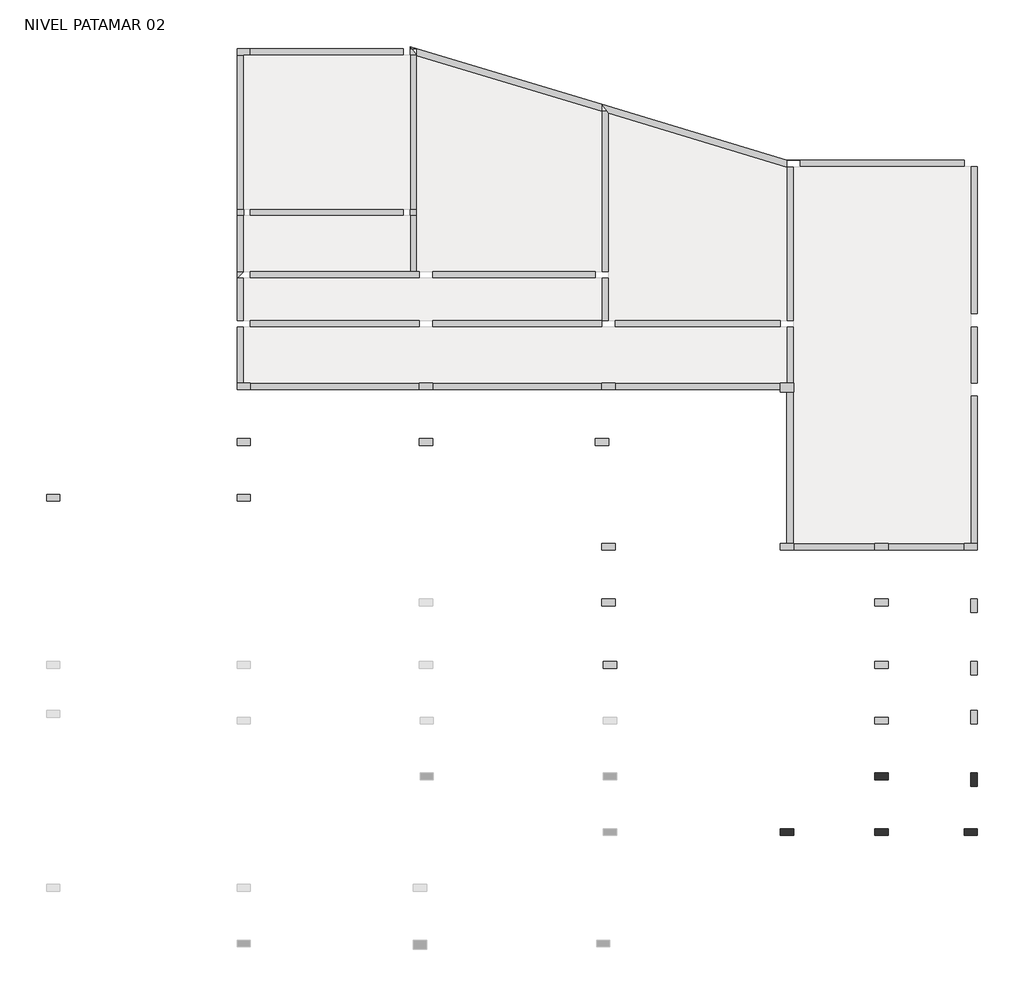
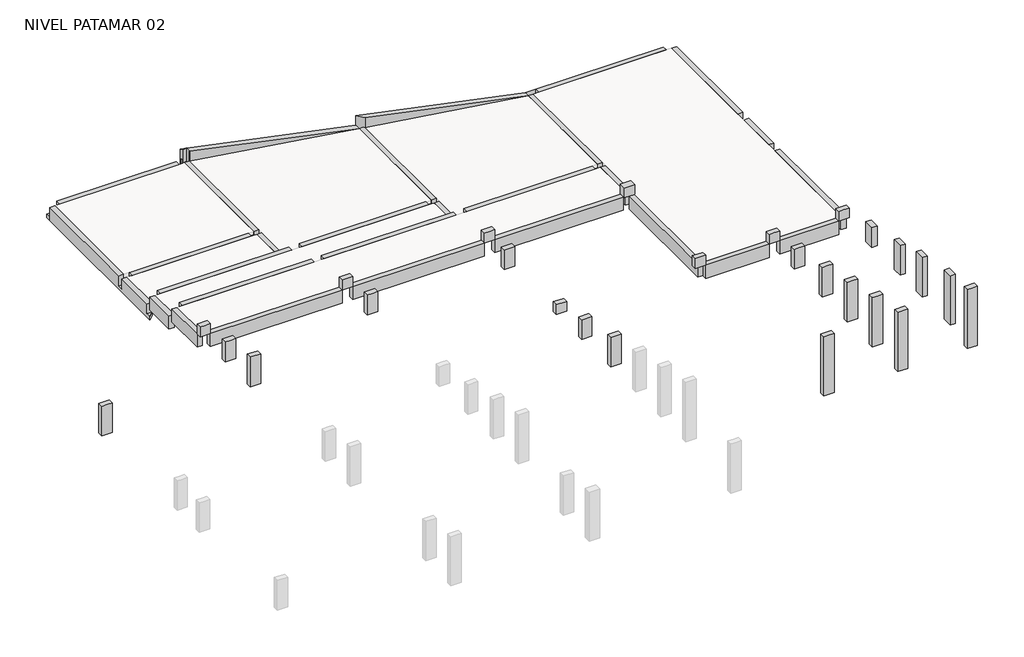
# One storey, part 2 of 2: 26 columns, 16 beams.
"""IFC4 building model written with IfcOpenShell, lengths in millimetres."""

from ifc_helpers import new_model, si_unit, frame, origin, place, context, project, spatial, polyline, outline, extrude, faceted_brep, element, save

model = new_model("IFC4")

# Units and contexts
model_context = context("Model", 3, world=origin())
ifc_project = project(units=[si_unit("LENGTHUNIT", "METRE", prefix="MILLI")], contexts=[model_context])

# Site, building, storey
site = spatial("IfcSite", under=ifc_project)
building = spatial("IfcBuilding", under=site)
storey = spatial("IfcBuildingStorey", under=building, Name="NIVEL PATAMAR 02", Elevation=900.0)

# Beams
placement = place(None, origin())
element("IfcBeam", 1, ObjectType="TQS - Viga retangular : 15,0 x 40,0", at=placement, inside=storey, context=model_context, shape_type="Brep", body=[
    faceted_brep([(52420.0, 7470.0, 900.0), (52420.0, 7320.0, 900.0), (54120.0, 7320.0, 900.0), (54120.0, 7470.0, 900.0), (52420.0, 7320.0, 500.0), (54120.0, 7320.0, 500.0), (52420.0, 7470.0, 500.0), (54120.0, 7470.0, 500.0)], [[[0, 1, 2, 3]], [[1, 4, 5, 2]], [[4, 6, 7, 5]], [[6, 0, 3, 7]], [[1, 0, 6, 4]], [[3, 2, 5, 7]]]),
    faceted_brep([(50300.0, 7320.0, 900.0), (50300.0, 7470.0, 900.0), (50300.0, 7470.0, 800.0), (50300.0, 7470.0, 500.0), (50300.0, 7320.0, 500.0), (52120.0, 7470.0, 900.0), (52120.0, 7320.0, 900.0), (52120.0, 7320.0, 500.0), (52120.0, 7470.0, 500.0)], [[[0, 1, 2, 3, 4]], [[5, 6, 7, 8]], [[1, 0, 6, 5]], [[0, 4, 7, 6]], [[4, 3, 8, 7]], [[3, 2, 1, 5, 8]]]),
])
element("IfcBeam", 2, ObjectType="TQS - Viga retangular : 15,0 x 40,0", at=placement, inside=storey, context=model_context, shape_type="Brep", body=[
    faceted_brep([(54420.0, 15920.0, 900.0), (54270.0, 15920.0, 900.0), (54270.0, 12620.0, 900.0), (54420.0, 12620.0, 900.0), (54420.0, 15920.0, 500.0), (54420.0, 12620.0, 500.0), (54270.0, 15920.0, 500.0), (54270.0, 12620.0, 500.0), (54270.0, 15920.0, 800.0)], [[[0, 1, 2, 3]], [[4, 0, 3, 5]], [[6, 4, 5, 7]], [[1, 8, 6, 7, 2]], [[1, 0, 4, 6, 8]], [[3, 2, 7, 5]]]),
    faceted_brep([(54420.0, 7470.0, 900.0), (54270.0, 7470.0, 900.0), (54270.0, 7470.0, 800.0), (54270.0, 7470.0, 500.0), (54420.0, 7470.0, 500.0), (54270.0, 10770.0, 900.0), (54420.0, 10770.0, 900.0), (54420.0, 10770.0, 500.0), (54270.0, 10770.0, 500.0)], [[[0, 1, 2, 3, 4]], [[5, 6, 7, 8]], [[1, 0, 6, 5]], [[0, 4, 7, 6]], [[4, 3, 8, 7]], [[3, 2, 1, 5, 8]]]),
    faceted_brep([(54420.0, 11070.0, 900.0), (54270.0, 11070.0, 900.0), (54270.0, 11070.0, 500.0), (54420.0, 11070.0, 500.0), (54270.0, 12320.0, 900.0), (54420.0, 12320.0, 900.0), (54420.0, 12320.0, 500.0), (54270.0, 12320.0, 500.0)], [[[0, 1, 2, 3]], [[4, 5, 6, 7]], [[1, 0, 5, 4]], [[0, 3, 6, 5]], [[3, 2, 7, 6]], [[2, 1, 4, 7]]]),
])
element("IfcBeam", 3, ObjectType="TQS - Viga retangular : 15,0 x 40,0", at=placement, inside=storey, context=model_context, shape_type="Brep", body=[
    faceted_brep([(54120.0, 15920.0, 900.0), (54120.0, 16070.0, 900.0), (50150.0, 16070.0, 900.0), (50150.0, 16063.3437467, 900.0), (50450.0, 16063.3437467, 900.0), (50450.0, 15920.0, 900.0), (54120.0, 15920.0, 500.0), (50450.0, 15920.0, 800.0), (50450.0, 15920.0, 500.0), (54120.0, 16070.0, 500.0), (50450.0, 16063.3437467, 500.0), (50150.0, 16063.3437467, 500.0), (50150.0, 16070.0, 500.0)], [[[0, 1, 2, 3, 4, 5]], [[6, 0, 5, 7, 8]], [[9, 6, 8, 10, 11, 12]], [[1, 9, 12, 2]], [[10, 4, 3, 11]], [[4, 10, 8, 7, 5]], [[1, 0, 6, 9]], [[2, 12, 11, 3]]]),
])
element("IfcBeam", 4, ObjectType="TQS - Viga retangular : 15,0 x 40,0", at=placement, inside=storey, context=model_context, shape_type="Brep", body=[
    faceted_brep([(50300.0, 7470.0, 900.0), (50150.0, 7470.0, 900.0), (50150.0, 7470.0, 799.7190727), (50150.0, 7470.0, 500.0), (50300.0, 7470.0, 500.0), (50300.0, 7470.0, 800.0), (50150.0, 10870.0, 900.0), (50300.0, 10870.0, 900.0), (50300.0, 10870.0, 500.0), (50150.0, 10870.0, 500.0), (50150.0, 10870.0, 799.7190727)], [[[0, 1, 2, 3, 4, 5]], [[6, 7, 8, 9, 10]], [[1, 0, 7, 6]], [[0, 5, 4, 8, 7]], [[4, 3, 9, 8]], [[3, 2, 1, 6, 10, 9]]]),
    faceted_brep([(50300.0, 11070.0, 900.0), (50150.0, 11070.0, 900.0), (50150.0, 11070.0, 800.0), (50150.0, 11070.0, 500.0), (50300.0, 11070.0, 500.0), (50150.0, 12320.0, 900.0), (50300.0, 12320.0, 900.0), (50300.0, 12320.0, 500.0), (50150.0, 12320.0, 500.0), (50150.0, 12320.0, 800.0)], [[[0, 1, 2, 3, 4]], [[5, 6, 7, 8, 9]], [[1, 0, 6, 5]], [[0, 4, 7, 6]], [[4, 3, 8, 7]], [[3, 2, 1, 5, 9, 8]]]),
    faceted_brep([(50300.0, 12470.0, 900.0), (50150.0, 12470.0, 900.0), (50150.0, 12470.0, 799.7191444), (50150.0, 12470.0, 500.0), (50300.0, 12470.0, 500.0), (50150.0, 15913.3437467, 900.0), (50300.0, 15913.3437467, 900.0), (50300.0, 15913.3437467, 800.0), (50300.0, 15913.3437467, 500.0), (50150.0, 15913.3437467, 500.0)], [[[0, 1, 2, 3, 4]], [[5, 6, 7, 8, 9]], [[1, 0, 6, 5]], [[0, 4, 8, 7, 6]], [[4, 3, 9, 8]], [[3, 2, 1, 5, 9]]]),
])
element("IfcBeam", 5, ObjectType="TQS - Viga retangular : 15,0 x 40,0", at=placement, inside=storey, context=model_context, shape_type="SweptSolid", body=[
    extrude(outline(polyline([(38120.0, 12470.0), (41910.0, 12470.0), (41910.0, 12320.0), (38120.0, 12320.0), (38120.0, 12470.0)])), frame((0.0, 0.0, 600.0), z_axis=(0.0, 0.0, 1.0), x_axis=(1.0, 0.0, 0.0)), (0.0, 0.0, 1.0), 300.0),
    extrude(outline(polyline([(46300.0, 12320.0), (46300.0, 12470.0), (50000.0, 12470.0), (50000.0, 12320.0), (46300.0, 12320.0)])), frame((0.0, 0.0, 500.0), z_axis=(0.0, 0.0, 1.0), x_axis=(1.0, 0.0, 0.0)), (0.0, 0.0, 1.0), 400.0),
    extrude(outline(polyline([(46000.0, 12470.0), (46000.0, 12320.0), (42210.0, 12320.0), (42210.0, 12470.0), (46000.0, 12470.0)])), frame((0.0, 0.0, 600.0), z_axis=(0.0, 0.0, 1.0), x_axis=(1.0, 0.0, 0.0)), (0.0, 0.0, 1.0), 300.0),
])
element("IfcBeam", 6, ObjectType="TQS - Viga retangular : 15,0 x 40,0", at=placement, inside=storey, context=model_context, shape_type="Brep", body=[
    faceted_brep([(38120.0, 11070.0, 900.0), (38120.0, 10920.0, 900.0), (41910.0, 10920.0, 900.0), (41910.0, 11070.0, 900.0), (38120.0, 11070.0, 500.0), (41910.0, 11070.0, 500.0), (38120.0, 10920.0, 500.0), (41910.0, 10920.0, 500.0)], [[[0, 1, 2, 3]], [[4, 0, 3, 5]], [[6, 4, 5, 7]], [[1, 6, 7, 2]], [[1, 0, 4, 6]], [[3, 2, 7, 5]]]),
    faceted_brep([(50000.0, 11070.0, 900.0), (50000.0, 10920.0, 900.0), (50000.0, 10920.0, 810.9690754), (50000.0, 10920.0, 500.0), (50000.0, 11070.0, 500.0), (46300.0, 10920.0, 900.0), (46300.0, 11070.0, 900.0), (46300.0, 11070.0, 500.0), (46300.0, 10920.0, 500.0)], [[[0, 1, 2, 3, 4]], [[5, 6, 7, 8]], [[1, 0, 6, 5]], [[0, 4, 7, 6]], [[4, 3, 8, 7]], [[3, 2, 1, 5, 8]]]),
    faceted_brep([(46000.0, 11070.0, 900.0), (46000.0, 10920.0, 900.0), (46000.0, 10920.0, 500.0), (46000.0, 11070.0, 500.0), (42210.0, 10920.0, 900.0), (42210.0, 11070.0, 900.0), (42210.0, 11070.0, 500.0), (42210.0, 10920.0, 500.0)], [[[0, 1, 2, 3]], [[4, 5, 6, 7]], [[1, 0, 5, 4]], [[0, 3, 6, 5]], [[3, 2, 7, 6]], [[2, 1, 4, 7]]]),
])
element("IfcBeam", 7, ObjectType="TQS - Viga retangular : 15,0 x 40,0", at=placement, inside=storey, context=model_context, shape_type="Brep", body=[
    faceted_brep([(37970.0, 12320.0, 900.0), (37820.0, 12320.0, 900.0), (37820.0, 11070.0, 900.0), (37970.0, 11070.0, 900.0), (37970.0, 12320.0, 500.0), (37970.0, 12320.0, 800.0), (37970.0, 11070.0, 800.0), (37970.0, 11070.0, 500.0), (37820.0, 12320.0, 500.0), (37820.0, 11070.0, 500.0)], [[[0, 1, 2, 3]], [[4, 5, 0, 3, 6, 7]], [[8, 4, 7, 9]], [[1, 8, 9, 2]], [[2, 9, 7, 6, 3]], [[1, 0, 5, 4, 8]]]),
])
element("IfcBeam", 8, ObjectType="TQS - Viga retangular : 15,0 x 40,0", at=placement, inside=storey, context=model_context, shape_type="Brep", body=[
    faceted_brep([(50150.0, 15913.3437467, 900.0), (50150.0, 16063.3437467, 900.0), (50150.0, 16070.0, 900.0), (46000.0, 17319.9644717, 900.0), (46150.0, 17118.1287797, 900.0), (50150.0, 16070.0, 500.0), (46000.0, 17319.9644717, 500.0), (50150.0, 16063.3437467, 500.0), (50150.0, 15913.3437467, 500.0), (46150.0, 17118.1287797, 500.0), (50150.0, 15913.3437467, 799.7191444)], [[[0, 1, 2, 3, 4]], [[2, 5, 6, 3]], [[5, 7, 8, 9, 6]], [[0, 4, 9, 8, 10]], [[5, 2, 1, 0, 10, 8, 7]], [[4, 3, 6, 9]]]),
])
element("IfcBeam", 9, ObjectType="TQS - Viga retangular : 15,0 x 40,0", at=placement, inside=storey, context=model_context, shape_type="Brep", body=[
    faceted_brep([(46000.0, 13570.0, 600.0), (46150.0, 13570.0, 600.0), (46150.0, 17163.2464716, 600.0), (46000.0, 17163.2464716, 600.0), (46150.0, 13570.0, 200.0), (46150.0, 17163.2464716, 200.0), (46000.0, 13570.0, 200.0), (46000.0, 17163.2464716, 200.0), (46000.0, 13570.0, 499.7390544)], [[[0, 1, 2, 3]], [[1, 4, 5, 2]], [[4, 6, 7, 5]], [[6, 8, 0, 3, 7]], [[1, 0, 8, 6, 4]], [[3, 2, 5, 7]]]),
    faceted_brep([(46150.0, 12470.0, 600.0), (46000.0, 12470.0, 600.0), (46000.0, 12470.0, 200.0), (46150.0, 12470.0, 200.0), (46150.0, 12470.0, 499.7191444), (46000.0, 13420.0, 600.0), (46150.0, 13420.0, 600.0), (46150.0, 13420.0, 200.0), (46000.0, 13420.0, 200.0), (46000.0, 13420.0, 500.0)], [[[0, 1, 2, 3, 4]], [[5, 6, 7, 8, 9]], [[1, 0, 6, 5]], [[0, 4, 3, 7, 6]], [[3, 2, 8, 7]], [[2, 1, 5, 9, 8]]]),
])
element("IfcBeam", 10, ObjectType="TQS - Viga retangular : 15,0 x 40,0", at=placement, inside=storey, context=model_context, shape_type="Brep", body=[
    faceted_brep([(45850.0, 13420.0, 600.0), (45850.0, 13570.0, 600.0), (42210.0, 13570.0, 600.0), (42210.0, 13420.0, 600.0), (42210.0, 13420.0, 200.0), (45850.0, 13420.0, 200.0), (42210.0, 13570.0, 200.0), (45850.0, 13570.0, 200.0)], [[[0, 1, 2, 3]], [[3, 4, 5, 0]], [[4, 6, 7, 5]], [[6, 2, 1, 7]], [[4, 3, 2, 6]], [[1, 0, 5, 7]]]),
    faceted_brep([(41910.0, 13420.0, 600.0), (41910.0, 13420.0, 200.0), (41910.0, 13570.0, 200.0), (41910.0, 13570.0, 600.0), (38120.0, 13420.0, 200.0), (38120.0, 13570.0, 200.0), (41700.0, 13570.0, 200.0), (38120.0, 13420.0, 600.0), (38120.0, 13570.0, 600.0)], [[[0, 1, 2, 3]], [[2, 1, 4, 5, 6]], [[5, 4, 7, 8]], [[0, 3, 8, 7]], [[1, 0, 7, 4]], [[3, 2, 6, 5, 8]]]),
])
element("IfcBeam", 11, ObjectType="TQS - Viga retangular : 15,0 x 40,0", at=placement, inside=storey, context=model_context, shape_type="Brep", body=[
    faceted_brep([(41850.0, 18413.3423766, 600.0), (41850.0, 18413.3423766, 200.0), (46000.0, 17163.2464716, 200.0), (46000.0, 17163.2464716, 600.0), (46000.0, 17319.904095, 600.0), (46000.0, 17319.904095, 200.0), (41850.0, 18570.0, 200.0), (41700.0, 18615.1841893, 200.0), (41700.0, 18615.1841893, 600.0), (41850.0, 18570.0, 600.0), (41850.0, 18420.0, 600.0), (41850.0, 18420.0, 200.0), (41845.0523457, 18420.0, 200.0), (41845.0523457, 18420.0, 300.0), (41845.0523457, 18420.0, 600.0), (41733.5789117, 18570.0, 600.0), (41733.5789117, 18570.0, 300.0), (41733.5789117, 18570.0, 200.0), (46000.0, 17218.9831886, 600.0), (46000.0, 17218.9831886, 200.0)], [[[0, 1, 2, 3]], [[4, 5, 6, 7, 8, 9]], [[10, 11, 12, 13, 14]], [[6, 9, 15, 16, 17]], [[9, 6, 11, 10]], [[5, 4, 18, 3, 2, 19]], [[10, 14, 0, 3, 18, 4, 9]], [[12, 11, 6, 5, 19, 2, 1]], [[8, 7, 17, 16, 15]], [[9, 8, 15]], [[17, 7, 6]], [[1, 0, 14, 13, 12]]]),
])
element("IfcBeam", 12, ObjectType="TQS - Viga retangular : 15,0 x 40,0", at=placement, inside=storey, context=model_context, shape_type="Brep", body=[
    faceted_brep([(41850.0, 13570.0, 300.0), (41700.0, 13570.0, 300.0), (41700.0, 13570.0, 200.0), (41700.0, 13570.0, -100.0), (41850.0, 13570.0, -100.0), (41850.0, 13570.0, 199.7390544), (41850.0, 14820.0, 300.0), (41700.0, 14820.0, 300.0), (41700.0, 14820.0, 200.0), (41700.0, 14820.0, 0.0), (41700.0, 14970.0, 0.0), (41700.0, 14970.0, 200.0), (41700.0, 14970.0, 300.0), (41700.0, 18420.0, 300.0), (41700.0, 18420.0, 200.0), (41700.0, 18420.0, 0.0), (41700.0, 18570.0, 0.0), (41700.0, 18570.0, 300.0), (41700.0, 18615.1841893, 300.0), (41700.0, 18615.1841893, 200.0), (41700.0, 18615.1841893, -100.0), (41850.0, 18413.3423766, -100.0), (41850.0, 18413.3423766, 200.0), (41850.0, 18413.3423766, 300.0), (41850.0, 14970.0, 300.0), (41850.0, 14970.0, 0.0), (41850.0, 14820.0, 0.0), (41845.0523457, 18420.0, 300.0), (41845.0523457, 18420.0, 0.0), (41733.5789117, 18570.0, 0.0), (41845.0523457, 18420.0, 200.0), (41733.5789117, 18570.0, 300.0), (41733.5789117, 18570.0, 200.0)], [[[0, 1, 2, 3, 4, 5]], [[1, 0, 6, 7]], [[3, 2, 1, 7, 8, 9, 10, 11, 12, 13, 14, 15, 16, 17, 18, 19, 20]], [[4, 3, 20, 21]], [[0, 5, 4, 21, 22, 23, 24, 25, 26, 6]], [[25, 10, 9, 26]], [[26, 9, 8, 7, 6]], [[10, 25, 24, 12, 11]], [[24, 23, 27, 13, 12]], [[16, 15, 28, 29]], [[15, 14, 13, 27, 30, 28]], [[21, 20, 19, 18, 31, 32, 29, 28, 30, 27, 23, 22]], [[16, 29, 32, 31, 17]], [[18, 17, 31]]]),
])
element("IfcBeam", 13, ObjectType="TQS - Viga retangular : 15,0 x 40,0", at=placement, inside=storey, context=model_context, shape_type="Brep", body=[
    faceted_brep([(41550.0, 18420.0, 300.0), (41550.0, 18570.0, 300.0), (38120.0, 18570.0, 300.0), (38120.0, 18420.0, 300.0), (41550.0, 18570.0, 0.0), (41550.0, 18570.0, -100.0), (37820.0, 18570.0, -100.0), (37820.0, 18570.0, 0.0), (38120.0, 18570.0, 0.0), (41550.0, 18420.0, -100.0), (37820.0, 18420.0, -100.0), (41550.0, 18420.0, 0.0), (38120.0, 18420.0, 0.0), (37820.0, 18420.0, 0.0)], [[[0, 1, 2, 3]], [[1, 4, 5, 6, 7, 8, 2]], [[5, 9, 10, 6]], [[9, 11, 0, 3, 12, 13, 10]], [[12, 8, 7, 13]], [[8, 12, 3, 2]], [[0, 11, 9, 5, 4, 1]], [[6, 10, 13, 7]]]),
])
element("IfcBeam", 14, ObjectType="TQS - Viga retangular : 15,0 x 40,0", at=placement, inside=storey, context=model_context, shape_type="Brep", body=[
    faceted_brep([(38120.0, 14970.0, 300.0), (38120.0, 14820.0, 300.0), (41550.0, 14820.0, 300.0), (41550.0, 14970.0, 300.0), (38120.0, 14970.0, -100.0), (38120.0, 14970.0, 0.0), (41550.0, 14970.0, 0.0), (41550.0, 14970.0, -100.0), (38120.0, 14820.0, -100.0), (41550.0, 14820.0, -100.0), (38120.0, 14820.0, 0.0), (41550.0, 14820.0, 0.0)], [[[0, 1, 2, 3]], [[4, 5, 0, 3, 6, 7]], [[8, 4, 7, 9]], [[1, 10, 8, 9, 11, 2]], [[1, 0, 5, 4, 8, 10]], [[2, 11, 9, 7, 6, 3]]]),
])
element("IfcBeam", 15, ObjectType="TQS - Viga retangular : 15,0 x 40,0", at=placement, inside=storey, context=model_context, shape_type="Brep", body=[
    faceted_brep([(37820.0, 18407.3, 300.0), (37970.0, 18407.3, 300.0), (37970.0, 18407.3, -100.0), (37820.0, 18407.3, -100.0), (37820.0, 14970.0, 300.0), (37970.0, 14970.0, 300.0), (37970.0, 14970.0, 200.0), (37970.0, 14970.0, 0.0), (37970.0, 14820.0, 0.0), (37970.0, 14820.0, 200.0), (37970.0, 14820.0, 300.0), (37970.0, 13570.0, 300.0), (37970.0, 13570.0, 200.0), (37970.0, 13570.0, 0.0), (37970.0, 13570.0, -100.0), (37820.0, 13420.0, -100.0), (37820.0, 13420.0, 0.0), (37820.0, 13570.0, 0.0), (37820.0, 13570.0, 300.0), (37820.0, 14820.0, 300.0), (37820.0, 14820.0, 0.0), (37820.0, 14970.0, 0.0)], [[[0, 1, 2, 3]], [[1, 0, 4, 5]], [[2, 1, 5, 6, 7, 8, 9, 10, 11, 12, 13, 14]], [[3, 2, 14, 15]], [[0, 3, 15, 16, 17, 18, 19, 20, 21, 4]], [[13, 17, 16]], [[17, 13, 12, 11, 18]], [[7, 21, 20, 8]], [[8, 20, 19, 10, 9]], [[21, 7, 6, 5, 4]], [[11, 10, 19, 18]], [[15, 14, 13, 16]]]),
])
element("IfcBeam", 16, ObjectType="TQS - Viga retangular : 15,0 x 40,0", at=placement, inside=storey, context=model_context, shape_type="Brep", body=[
    faceted_brep([(37970.0, 13420.0, 600.0), (37820.0, 13420.0, 600.0), (37820.0, 12470.0, 600.0), (37970.0, 12470.0, 600.0), (37970.0, 13420.0, 200.0), (37970.0, 13420.0, 500.0), (37970.0, 12470.0, 500.0), (37970.0, 12470.0, 200.0), (37820.0, 13420.0, 200.0), (37820.0, 12470.0, 200.0)], [[[0, 1, 2, 3]], [[4, 5, 0, 3, 6, 7]], [[8, 4, 7, 9]], [[1, 8, 9, 2]], [[2, 9, 7, 6, 3]], [[1, 0, 5, 4, 8]]]),
])

# Columns
element("IfcColumn", 17, ObjectType="TQS - Pilar retangular : 15,0x30,0", at=placement, inside=storey, context=model_context, shape_type="Brep", body=[
    faceted_brep([(52120.0, 2320.0, 900.0), (52420.0, 2320.0, 900.0), (52420.0, 2170.0, 900.0), (52120.0, 2170.0, 900.0), (52120.0, 2320.0, 2400.0), (52420.0, 2320.0, 2400.0), (52420.0, 2320.0, 2100.0), (52420.0, 2320.0, 2000.0), (52420.0, 2320.0, 1700.0), (52120.0, 2320.0, 2000.0), (52420.0, 2170.0, 2400.0), (52420.0, 2170.0, 2000.0), (52270.0, 2170.0, 2400.0), (52120.0, 2170.0, 2400.0), (52120.0, 2170.0, 2000.0)], [[[0, 1, 2, 3]], [[4, 5, 6, 7, 8, 1, 0, 9]], [[5, 10, 11, 2, 1, 8, 7, 6]], [[10, 12, 13, 14, 3, 2, 11]], [[13, 4, 9, 0, 3, 14]], [[4, 13, 12, 10, 5]]]),
])
element("IfcColumn", 18, ObjectType="TQS - Pilar retangular : 15,0x30,0", at=placement, inside=storey, context=model_context, shape_type="Brep", body=[
    faceted_brep([(52120.0, 1070.0, 900.0), (52420.0, 1070.0, 900.0), (52420.0, 920.0, 900.0), (52120.0, 920.0, 900.0), (52120.0, 1070.0, 2700.0), (52420.0, 1070.0, 2700.0), (52420.0, 1070.0, 2400.0), (52420.0, 1070.0, 2300.0), (52420.0, 1070.0, 2000.0), (52120.0, 1070.0, 2300.0), (52420.0, 920.0, 2700.0), (52420.0, 920.0, 2300.0), (52120.0, 920.0, 2700.0), (52120.0, 920.0, 2300.0)], [[[0, 1, 2, 3]], [[4, 5, 6, 7, 8, 1, 0, 9]], [[5, 10, 11, 2, 1, 8, 7, 6]], [[10, 12, 13, 3, 2, 11]], [[12, 4, 9, 0, 3, 13]], [[4, 12, 10, 5]]]),
])
element("IfcColumn", 19, ObjectType="TQS - Pilar retangular : 15,0x30,0", at=placement, inside=storey, context=model_context, shape_type="Brep", body=[
    faceted_brep([(52120.0, 3570.0, 900.0), (52420.0, 3570.0, 900.0), (52420.0, 3420.0, 900.0), (52120.0, 3420.0, 900.0), (52120.0, 3570.0, 2100.0), (52420.0, 3570.0, 2100.0), (52420.0, 3570.0, 1800.0), (52420.0, 3570.0, 1700.0), (52420.0, 3570.0, 1400.0), (52120.0, 3570.0, 1700.0), (52420.0, 3420.0, 2100.0), (52420.0, 3420.0, 1700.0), (52270.0, 3420.0, 2100.0), (52120.0, 3420.0, 2100.0), (52120.0, 3420.0, 1700.0)], [[[0, 1, 2, 3]], [[4, 5, 6, 7, 8, 1, 0, 9]], [[5, 10, 11, 2, 1, 8, 7, 6]], [[10, 12, 13, 14, 3, 2, 11]], [[13, 4, 9, 0, 3, 14]], [[4, 13, 12, 10, 5]]]),
])
element("IfcColumn", 20, ObjectType="TQS - Pilar retangular : 15,0x30,0", at=placement, inside=storey, context=model_context, shape_type="Brep", body=[
    faceted_brep([(46030.0, 4820.0, 900.0), (46330.0, 4820.0, 900.0), (46330.0, 4670.0, 900.0), (46030.0, 4670.0, 900.0), (46030.0, 4820.0, 1800.0), (46330.0, 4820.0, 1800.0), (46330.0, 4820.0, 1400.0), (46030.0, 4820.0, 1400.0), (46330.0, 4670.0, 1800.0), (46330.0, 4670.0, 1400.0), (46030.0, 4670.0, 1800.0), (46030.0, 4670.0, 1400.0)], [[[0, 1, 2, 3]], [[4, 5, 6, 1, 0, 7]], [[5, 8, 9, 2, 1, 6]], [[8, 10, 11, 3, 2, 9]], [[10, 4, 7, 0, 3, 11]], [[4, 10, 8, 5]]]),
])
element("IfcColumn", 21, ObjectType="TQS - Pilar retangular : 15,0x30,0", at=placement, inside=storey, context=model_context, shape_type="Brep", body=[
    faceted_brep([(52120.0, 4820.0, 900.0), (52420.0, 4820.0, 900.0), (52420.0, 4670.0, 900.0), (52120.0, 4670.0, 900.0), (52120.0, 4820.0, 1800.0), (52420.0, 4820.0, 1800.0), (52420.0, 4820.0, 1500.0), (52420.0, 4820.0, 1400.0), (52420.0, 4820.0, 1100.0), (52120.0, 4820.0, 1400.0), (52420.0, 4670.0, 1800.0), (52420.0, 4670.0, 1400.0), (52270.0, 4670.0, 1800.0), (52120.0, 4670.0, 1800.0), (52120.0, 4670.0, 1400.0)], [[[0, 1, 2, 3]], [[4, 5, 6, 7, 8, 1, 0, 9]], [[5, 10, 11, 2, 1, 8, 7, 6]], [[10, 12, 13, 14, 3, 2, 11]], [[13, 4, 9, 0, 3, 14]], [[4, 13, 12, 10, 5]]]),
])
element("IfcColumn", 22, ObjectType="TQS - Pilar retangular : 15,0x30,0", at=placement, inside=storey, context=model_context, shape_type="Brep", body=[
    faceted_brep([(46000.0, 6220.0, 900.0), (46300.0, 6220.0, 900.0), (46300.0, 6070.0, 900.0), (46000.0, 6070.0, 900.0), (46000.0, 6220.0, 1100.0), (46000.0, 6220.0, 1200.0), (46000.0, 6220.0, 1500.0), (46300.0, 6220.0, 1500.0), (46300.0, 6220.0, 1200.0), (46300.0, 6220.0, 1100.0), (46300.0, 6070.0, 1500.0), (46300.0, 6070.0, 1200.0), (46300.0, 6070.0, 1100.0), (46000.0, 6070.0, 1500.0), (46000.0, 6070.0, 1100.0)], [[[0, 1, 2, 3]], [[1, 0, 4, 5, 6, 7, 8, 9]], [[2, 1, 9, 8, 7, 10, 11, 12]], [[3, 2, 12, 11, 10, 13, 14]], [[0, 3, 14, 13, 6, 5, 4]], [[7, 6, 13, 10]]]),
])
element("IfcColumn", 23, ObjectType="TQS - Pilar retangular : 15,0x30,0", at=placement, inside=storey, context=model_context, shape_type="Brep", body=[
    faceted_brep([(52120.0, 6220.0, 900.0), (52420.0, 6220.0, 900.0), (52420.0, 6070.0, 900.0), (52120.0, 6070.0, 900.0), (52120.0, 6220.0, 1100.0), (52120.0, 6220.0, 1200.0), (52120.0, 6220.0, 1500.0), (52420.0, 6220.0, 1500.0), (52420.0, 6220.0, 1200.0), (52420.0, 6070.0, 1500.0), (52420.0, 6070.0, 1200.0), (52420.0, 6070.0, 1100.0), (52270.0, 6070.0, 1500.0), (52120.0, 6070.0, 1500.0), (52120.0, 6070.0, 1200.0), (52120.0, 6070.0, 1100.0)], [[[0, 1, 2, 3]], [[1, 0, 4, 5, 6, 7, 8]], [[2, 1, 8, 7, 9, 10, 11]], [[3, 2, 11, 10, 9, 12, 13, 14, 15]], [[0, 3, 15, 14, 13, 6, 5, 4]], [[7, 6, 13, 12, 9]]]),
])
element("IfcColumn", 24, ObjectType="TQS - Pilar retangular : 15,0x30,0", at=placement, inside=storey, context=model_context, shape_type="Brep", body=[
    faceted_brep([(37820.0, 8570.0, 900.0), (38120.0, 8570.0, 900.0), (38120.0, 8420.0, 900.0), (37820.0, 8420.0, 900.0), (37820.0, 8570.0, 1800.0), (38120.0, 8570.0, 1800.0), (38120.0, 8570.0, 1400.0), (37820.0, 8570.0, 1100.0), (37820.0, 8570.0, 1400.0), (37820.0, 8570.0, 1500.0), (38120.0, 8420.0, 1800.0), (38120.0, 8420.0, 1400.0), (37970.0, 8420.0, 1800.0), (37820.0, 8420.0, 1800.0), (37820.0, 8420.0, 1400.0)], [[[0, 1, 2, 3]], [[4, 5, 6, 1, 0, 7, 8, 9]], [[5, 10, 11, 2, 1, 6]], [[10, 12, 13, 14, 3, 2, 11]], [[13, 4, 9, 8, 7, 0, 3, 14]], [[4, 13, 12, 10, 5]]]),
])
element("IfcColumn", 25, ObjectType="TQS - Pilar retangular : 15,0x30,0", at=placement, inside=storey, context=model_context, shape_type="Brep", body=[
    faceted_brep([(37820.0, 9820.0, 900.0), (38120.0, 9820.0, 900.0), (38120.0, 9670.0, 900.0), (37820.0, 9670.0, 900.0), (37820.0, 9820.0, 1500.0), (38120.0, 9820.0, 1500.0), (38120.0, 9820.0, 1100.0), (37820.0, 9820.0, 1200.0), (38120.0, 9670.0, 1500.0), (38120.0, 9670.0, 1100.0), (37970.0, 9670.0, 1500.0), (37820.0, 9670.0, 1500.0), (37820.0, 9670.0, 1100.0)], [[[0, 1, 2, 3]], [[4, 5, 6, 1, 0, 7]], [[5, 8, 9, 2, 1, 6]], [[8, 10, 11, 12, 3, 2, 9]], [[11, 4, 7, 0, 3, 12]], [[4, 11, 10, 8, 5]]]),
])
element("IfcColumn", 26, ObjectType="TQS - Pilar retangular : 15,0x30,0", at=placement, inside=storey, context=model_context, shape_type="Brep", body=[
    faceted_brep([(41910.0, 9820.0, 900.0), (42210.0, 9820.0, 900.0), (42210.0, 9670.0, 900.0), (41910.0, 9670.0, 900.0), (41910.0, 9820.0, 1500.0), (42210.0, 9820.0, 1500.0), (42210.0, 9820.0, 1100.0), (41910.0, 9820.0, 1100.0), (42210.0, 9670.0, 1500.0), (42210.0, 9670.0, 1100.0), (42060.0, 9670.0, 1500.0), (41910.0, 9670.0, 1500.0), (41910.0, 9670.0, 1100.0)], [[[0, 1, 2, 3]], [[4, 5, 6, 1, 0, 7]], [[5, 8, 9, 2, 1, 6]], [[8, 10, 11, 12, 3, 2, 9]], [[11, 4, 7, 0, 3, 12]], [[4, 11, 10, 8, 5]]]),
])
element("IfcColumn", 27, ObjectType="TQS - Pilar retangular : 15,0x30,0", at=placement, inside=storey, context=model_context, shape_type="Brep", body=[
    faceted_brep([(45850.0, 9820.0, 900.0), (46150.0, 9820.0, 900.0), (46150.0, 9670.0, 900.0), (45850.0, 9670.0, 900.0), (45850.0, 9820.0, 1500.0), (46150.0, 9820.0, 1500.0), (46150.0, 9820.0, 1200.0), (45850.0, 9820.0, 1100.0), (46150.0, 9670.0, 1500.0), (46150.0, 9670.0, 1200.0), (45850.0, 9670.0, 1500.0), (45850.0, 9670.0, 1100.0)], [[[0, 1, 2, 3]], [[4, 5, 6, 1, 0, 7]], [[5, 8, 9, 2, 1, 6]], [[8, 10, 11, 3, 2, 9]], [[10, 4, 7, 0, 3, 11]], [[4, 10, 8, 5]]]),
])
element("IfcColumn", 28, ObjectType="TQS - Pilar retangular : 15,0x30,0", at=placement, inside=storey, context=model_context, shape_type="Brep", body=[
    faceted_brep([(46000.0, 7470.0, 900.0), (46300.0, 7470.0, 900.0), (46300.0, 7320.0, 900.0), (46000.0, 7320.0, 900.0), (46000.0, 7470.0, 1200.0), (46150.0, 7470.0, 1200.0), (46300.0, 7470.0, 1200.0), (46300.0, 7320.0, 1200.0), (46150.0, 7320.0, 1200.0), (46000.0, 7320.0, 1200.0)], [[[0, 1, 2, 3]], [[4, 5, 6, 1, 0]], [[6, 7, 2, 1]], [[7, 8, 9, 3, 2]], [[9, 4, 0, 3]], [[4, 9, 8, 7, 6, 5]]]),
])
element("IfcColumn", 29, ObjectType="TQS - Pilar retangular : 15,0x30,0", at=placement, inside=storey, context=model_context, shape_type="SweptSolid", body=[
    extrude(outline(polyline([(50000.0, 7470.0), (50300.0, 7470.0), (50300.0, 7320.0), (50000.0, 7320.0), (50000.0, 7470.0)])), frame((0.0, 0.0, 900.0), z_axis=(0.0, 0.0, 1.0), x_axis=(1.0, 0.0, 0.0)), (0.0, 0.0, 1.0), 300.0),
])
element("IfcColumn", 30, ObjectType="TQS - Pilar retangular : 15,0x30,0", at=placement, inside=storey, context=model_context, shape_type="Brep", body=[
    faceted_brep([(52120.0, 7470.0, 900.0), (52420.0, 7470.0, 900.0), (52420.0, 7320.0, 900.0), (52120.0, 7320.0, 900.0), (52120.0, 7470.0, 1200.0), (52420.0, 7470.0, 1200.0), (52420.0, 7320.0, 1200.0), (52270.0, 7320.0, 1200.0), (52120.0, 7320.0, 1200.0)], [[[0, 1, 2, 3]], [[4, 5, 1, 0]], [[5, 6, 2, 1]], [[6, 7, 8, 3, 2]], [[8, 4, 0, 3]], [[4, 8, 7, 6, 5]]]),
])
element("IfcColumn", 31, ObjectType="TQS - Pilar retangular : 15,0x30,0", at=placement, inside=storey, context=model_context, shape_type="Brep", body=[
    faceted_brep([(46000.0, 11070.0, 900.0), (46300.0, 11070.0, 900.0), (46300.0, 10920.0, 900.0), (46000.0, 10920.0, 900.0), (46000.0, 11070.0, 1200.0), (46300.0, 11070.0, 1200.0), (46300.0, 10920.0, 1200.0), (46150.0, 10920.0, 1200.0), (46000.0, 10920.0, 1200.0)], [[[0, 1, 2, 3]], [[4, 5, 1, 0]], [[5, 6, 2, 1]], [[6, 7, 8, 3, 2]], [[8, 4, 0, 3]], [[4, 8, 7, 6, 5]]]),
])
element("IfcColumn", 32, ObjectType="TQS - Pilar retangular : 15,0x30,0", at=placement, inside=storey, context=model_context, shape_type="Brep", body=[
    faceted_brep([(37820.0, 11070.0, 900.0), (38120.0, 11070.0, 900.0), (38120.0, 10920.0, 900.0), (37820.0, 10920.0, 900.0), (37820.0, 11070.0, 1200.0), (38120.0, 11070.0, 1200.0), (38120.0, 10920.0, 1200.0), (37970.0, 10920.0, 1200.0), (37820.0, 10920.0, 1200.0)], [[[0, 1, 2, 3]], [[4, 5, 1, 0]], [[5, 6, 2, 1]], [[6, 7, 8, 3, 2]], [[8, 4, 0, 3]], [[4, 8, 7, 6, 5]]]),
])
element("IfcColumn", 33, ObjectType="TQS - Pilar retangular : 15,0x30,0", at=placement, inside=storey, context=model_context, shape_type="SweptSolid", body=[
    extrude(outline(polyline([(41910.0, 11070.0), (42210.0, 11070.0), (42210.0, 10920.0), (41910.0, 10920.0), (41910.0, 11070.0)])), frame((0.0, 0.0, 900.0), z_axis=(0.0, 0.0, 1.0), x_axis=(1.0, 0.0, 0.0)), (0.0, 0.0, 1.0), 300.0),
])
element("IfcColumn", 34, ObjectType="TQS - Pilar retangular : 15,0x30,0", at=placement, inside=storey, context=model_context, shape_type="Brep", body=[
    faceted_brep([(54120.0, 7470.0, 900.0), (54420.0, 7470.0, 900.0), (54420.0, 7320.0, 900.0), (54120.0, 7320.0, 900.0), (54120.0, 7470.0, 1200.0), (54420.0, 7470.0, 1200.0), (54420.0, 7320.0, 1200.0), (54270.0, 7320.0, 1200.0), (54120.0, 7320.0, 1200.0)], [[[0, 1, 2, 3]], [[4, 5, 1, 0]], [[5, 6, 2, 1]], [[6, 7, 8, 3, 2]], [[8, 4, 0, 3]], [[4, 8, 7, 6, 5]]]),
])
element("IfcColumn", 35, ObjectType="TQS - Pilar retangular : 15,0x30,0", at=placement, inside=storey, context=model_context, shape_type="Brep", body=[
    faceted_brep([(50000.0, 1070.0, 900.0), (50300.0, 1070.0, 900.0), (50300.0, 920.0, 900.0), (50000.0, 920.0, 900.0), (50000.0, 1070.0, 2700.0), (50300.0, 1070.0, 2700.0), (50300.0, 1070.0, 2300.0), (50000.0, 1070.0, 2300.0), (50300.0, 920.0, 2700.0), (50300.0, 920.0, 2300.0), (50150.0, 920.0, 2700.0), (50000.0, 920.0, 2700.0), (50000.0, 920.0, 2300.0)], [[[0, 1, 2, 3]], [[4, 5, 6, 1, 0, 7]], [[5, 8, 9, 2, 1, 6]], [[8, 10, 11, 12, 3, 2, 9]], [[11, 4, 7, 0, 3, 12]], [[4, 11, 10, 8, 5]]]),
])
element("IfcColumn", 36, ObjectType="TQS - Pilar retangular : 15,0x30,0", at=placement, inside=storey, context=model_context, shape_type="Brep", body=[
    faceted_brep([(33550.0, 8570.0, 900.0), (33850.0, 8570.0, 900.0), (33850.0, 8420.0, 900.0), (33550.0, 8420.0, 900.0), (33550.0, 8570.0, 1800.0), (33850.0, 8570.0, 1800.0), (33850.0, 8570.0, 1400.0), (33850.0, 8420.0, 1800.0), (33850.0, 8420.0, 1400.0), (33700.0, 8420.0, 1800.0), (33550.0, 8420.0, 1800.0), (33550.0, 8420.0, 1400.0)], [[[0, 1, 2, 3]], [[4, 5, 6, 1, 0]], [[5, 7, 8, 2, 1, 6]], [[7, 9, 10, 11, 3, 2, 8]], [[10, 4, 0, 3, 11]], [[4, 10, 9, 7, 5]]]),
])
element("IfcColumn", 37, ObjectType="TQS - Pilar retangular : 15,0x30,0", at=placement, inside=storey, context=model_context, shape_type="Brep", body=[
    faceted_brep([(54420.0, 920.0, 900.0), (54120.0, 920.0, 900.0), (54120.0, 1070.0, 900.0), (54420.0, 1070.0, 900.0), (54420.0, 920.0, 2700.0), (54270.0, 920.0, 2700.0), (54120.0, 920.0, 2700.0), (54120.0, 920.0, 2300.0), (54420.0, 920.0, 2300.0), (54120.0, 1070.0, 2700.0), (54120.0, 1070.0, 2300.0), (54420.0, 1070.0, 2700.0), (54420.0, 1070.0, 2400.0), (54420.0, 1070.0, 2000.0)], [[[0, 1, 2, 3]], [[4, 5, 6, 7, 1, 0, 8]], [[6, 9, 10, 2, 1, 7]], [[9, 11, 12, 13, 3, 2, 10]], [[11, 4, 8, 0, 3, 13, 12]], [[4, 11, 9, 6, 5]]]),
])
element("IfcColumn", 38, ObjectType="TQS - Pilar retangular : 15,0x30,0", at=placement, inside=storey, context=model_context, shape_type="Brep", body=[
    faceted_brep([(54270.0, 2020.0, 900.0), (54270.0, 2320.0, 900.0), (54420.0, 2320.0, 900.0), (54420.0, 2020.0, 900.0), (54270.0, 2020.0, 2400.0), (54270.0, 2170.0, 2400.0), (54270.0, 2320.0, 2400.0), (54270.0, 2320.0, 2100.0), (54270.0, 2320.0, 2000.0), (54270.0, 2320.0, 1700.0), (54270.0, 2020.0, 2000.0), (54420.0, 2320.0, 2400.0), (54420.0, 2320.0, 2100.0), (54420.0, 2320.0, 1700.0), (54420.0, 2020.0, 2400.0), (54420.0, 2020.0, 2000.0)], [[[0, 1, 2, 3]], [[4, 5, 6, 7, 8, 9, 1, 0, 10]], [[6, 11, 12, 13, 2, 1, 9, 8, 7]], [[11, 14, 15, 3, 2, 13, 12]], [[14, 4, 10, 0, 3, 15]], [[4, 14, 11, 6, 5]]]),
])
element("IfcColumn", 39, ObjectType="TQS - Pilar retangular : 15,0x30,0", at=placement, inside=storey, context=model_context, shape_type="Brep", body=[
    faceted_brep([(54270.0, 3420.0, 900.0), (54270.0, 3720.0, 900.0), (54420.0, 3720.0, 900.0), (54420.0, 3420.0, 900.0), (54270.0, 3420.0, 2100.0), (54270.0, 3570.0, 2100.0), (54270.0, 3720.0, 2100.0), (54270.0, 3720.0, 1800.0), (54270.0, 3720.0, 1400.0), (54270.0, 3420.0, 1700.0), (54420.0, 3720.0, 2100.0), (54420.0, 3720.0, 1800.0), (54420.0, 3720.0, 1400.0), (54420.0, 3420.0, 2100.0), (54420.0, 3420.0, 1700.0)], [[[0, 1, 2, 3]], [[4, 5, 6, 7, 8, 1, 0, 9]], [[6, 10, 11, 12, 2, 1, 8, 7]], [[10, 13, 14, 3, 2, 12, 11]], [[13, 4, 9, 0, 3, 14]], [[4, 13, 10, 6, 5]]]),
])
element("IfcColumn", 40, ObjectType="TQS - Pilar retangular : 15,0x30,0", at=placement, inside=storey, context=model_context, shape_type="Brep", body=[
    faceted_brep([(54270.0, 4520.0, 900.0), (54270.0, 4820.0, 900.0), (54420.0, 4820.0, 900.0), (54420.0, 4520.0, 900.0), (54270.0, 4520.0, 1800.0), (54270.0, 4670.0, 1800.0), (54270.0, 4820.0, 1800.0), (54270.0, 4820.0, 1500.0), (54270.0, 4820.0, 1400.0), (54270.0, 4820.0, 1100.0), (54270.0, 4520.0, 1400.0), (54420.0, 4820.0, 1800.0), (54420.0, 4820.0, 1500.0), (54420.0, 4820.0, 1100.0), (54420.0, 4520.0, 1800.0), (54420.0, 4520.0, 1400.0)], [[[0, 1, 2, 3]], [[4, 5, 6, 7, 8, 9, 1, 0, 10]], [[6, 11, 12, 13, 2, 1, 9, 8, 7]], [[11, 14, 15, 3, 2, 13, 12]], [[14, 4, 10, 0, 3, 15]], [[4, 14, 11, 6, 5]]]),
])
element("IfcColumn", 41, ObjectType="TQS - Pilar retangular : 15,0x30,0", at=placement, inside=storey, context=model_context, shape_type="Brep", body=[
    faceted_brep([(54270.0, 5920.0, 900.0), (54270.0, 6220.0, 900.0), (54420.0, 6220.0, 900.0), (54420.0, 5920.0, 900.0), (54270.0, 5920.0, 1500.0), (54270.0, 6070.0, 1500.0), (54270.0, 6220.0, 1500.0), (54270.0, 6220.0, 1200.0), (54270.0, 5920.0, 1100.0), (54420.0, 6220.0, 1500.0), (54420.0, 6220.0, 1200.0), (54420.0, 5920.0, 1500.0), (54420.0, 5920.0, 1100.0)], [[[0, 1, 2, 3]], [[4, 5, 6, 7, 1, 0, 8]], [[6, 9, 10, 2, 1, 7]], [[9, 11, 12, 3, 2, 10]], [[11, 4, 8, 0, 3, 12]], [[4, 11, 9, 6, 5]]]),
])
element("IfcColumn", 42, ObjectType="TQS - Pilar retangular : 20,0x30,0", at=placement, inside=storey, context=model_context, shape_type="Brep", body=[
    faceted_brep([(50000.0, 11070.0, 900.0), (50300.0, 11070.0, 900.0), (50300.0, 10870.0, 900.0), (50149.9990463, 10870.0, 900.0), (50149.9990463, 10920.0, 900.0), (50000.0, 10920.0, 900.0), (50000.0, 11070.0, 1200.0), (50300.0, 11070.0, 1200.0), (50300.0, 10870.0, 1200.0), (50000.0, 10870.0, 1200.0), (50000.0, 10870.0, 911.2499312), (50000.0, 10920.0, 911.2499312), (50000.0, 10920.0, 1200.0)], [[[0, 1, 2, 3, 4, 5]], [[1, 0, 6, 7]], [[2, 1, 7, 8]], [[2, 8, 9, 10, 3]], [[6, 0, 5, 11, 10, 9, 12]], [[7, 6, 12, 9, 8]], [[11, 4, 3, 10]], [[4, 11, 5]]]),
])

save(model, "model.ifc")
